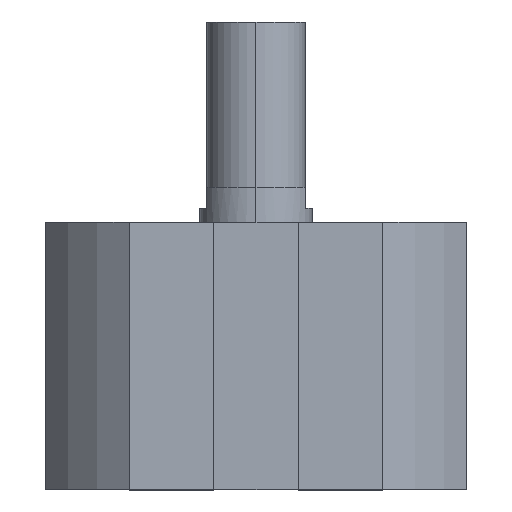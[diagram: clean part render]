
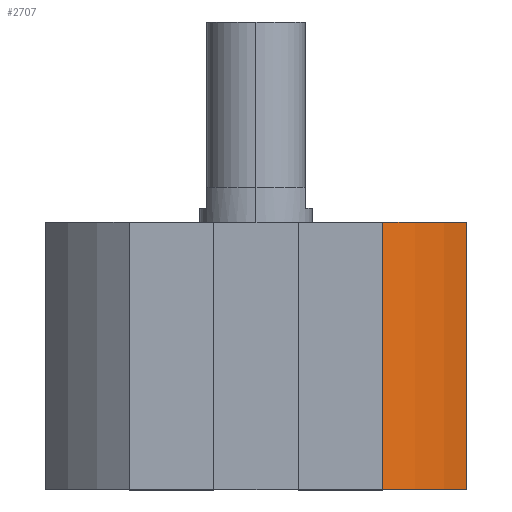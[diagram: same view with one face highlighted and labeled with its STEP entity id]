
A CAD part, top view. The second image highlights one B-rep face of the part: STEP entity #2707.
In plain terms, the highlighted cylindrical face has radius 35 mm (diameter 70 mm), a partial arc.
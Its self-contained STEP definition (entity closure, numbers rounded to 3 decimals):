
#13 = VERTEX_POINT ( 'NONE', #3043 ) ;
#159 = EDGE_LOOP ( 'NONE', ( #834, #2758, #2675, #728 ) ) ;
#230 = DIRECTION ( 'NONE',  ( 0., 1., 0. ) ) ;
#330 = AXIS2_PLACEMENT_3D ( 'NONE', #2045, #763, #1804 ) ;
#602 = DIRECTION ( 'NONE',  ( 0., 1., 0. ) ) ;
#624 = CIRCLE ( 'NONE', #1840, 35. ) ;
#728 = ORIENTED_EDGE ( 'NONE', *, *, #1347, .T. ) ;
#737 = AXIS2_PLACEMENT_3D ( 'NONE', #2931, #602, #1406 ) ;
#763 = DIRECTION ( 'NONE',  ( 0., 1., 0. ) ) ;
#788 = DIRECTION ( 'NONE',  ( 0., 0., 1. ) ) ;
#834 = ORIENTED_EDGE ( 'NONE', *, *, #2103, .F. ) ;
#969 = CARTESIAN_POINT ( 'NONE',  ( 30., -38., 18.028 ) ) ;
#1046 = EDGE_CURVE ( 'NONE', #13, #1602, #2836, .T. ) ;
#1140 = VECTOR ( 'NONE', #230, 1000. ) ;
#1250 = LINE ( 'NONE', #2512, #1140 ) ;
#1304 = DIRECTION ( 'NONE',  ( 0., 1., 0. ) ) ;
#1347 = EDGE_CURVE ( 'NONE', #1602, #2965, #2419, .T. ) ;
#1406 = DIRECTION ( 'NONE',  ( 0., 0., 1. ) ) ;
#1602 = VERTEX_POINT ( 'NONE', #969 ) ;
#1663 = CARTESIAN_POINT ( 'NONE',  ( 30., -38., 18.028 ) ) ;
#1793 = CARTESIAN_POINT ( 'NONE',  ( 0., 0., 0. ) ) ;
#1804 = DIRECTION ( 'NONE',  ( 0., 0., 1. ) ) ;
#1840 = AXIS2_PLACEMENT_3D ( 'NONE', #1793, #1304, #788 ) ;
#1867 = CARTESIAN_POINT ( 'NONE',  ( 18.028, 0., 30. ) ) ;
#2045 = CARTESIAN_POINT ( 'NONE',  ( 0., -38., 0. ) ) ;
#2061 = CYLINDRICAL_SURFACE ( 'NONE', #737, 35. ) ;
#2103 = EDGE_CURVE ( 'NONE', #3232, #2965, #624, .T. ) ;
#2329 = VECTOR ( 'NONE', #3137, 1000. ) ;
#2419 = LINE ( 'NONE', #1663, #2329 ) ;
#2512 = CARTESIAN_POINT ( 'NONE',  ( 18.028, -38., 30. ) ) ;
#2541 = CARTESIAN_POINT ( 'NONE',  ( 30., 0., 18.028 ) ) ;
#2675 = ORIENTED_EDGE ( 'NONE', *, *, #1046, .T. ) ;
#2707 = ADVANCED_FACE ( 'NONE', ( #3209 ), #2061, .T. ) ;
#2758 = ORIENTED_EDGE ( 'NONE', *, *, #2949, .F. ) ;
#2836 = CIRCLE ( 'NONE', #330, 35. ) ;
#2931 = CARTESIAN_POINT ( 'NONE',  ( 0., -38., 0. ) ) ;
#2949 = EDGE_CURVE ( 'NONE', #13, #3232, #1250, .T. ) ;
#2965 = VERTEX_POINT ( 'NONE', #2541 ) ;
#3043 = CARTESIAN_POINT ( 'NONE',  ( 18.028, -38., 30. ) ) ;
#3137 = DIRECTION ( 'NONE',  ( 0., 1., 0. ) ) ;
#3209 = FACE_OUTER_BOUND ( 'NONE', #159, .T. ) ;
#3232 = VERTEX_POINT ( 'NONE', #1867 ) ;
